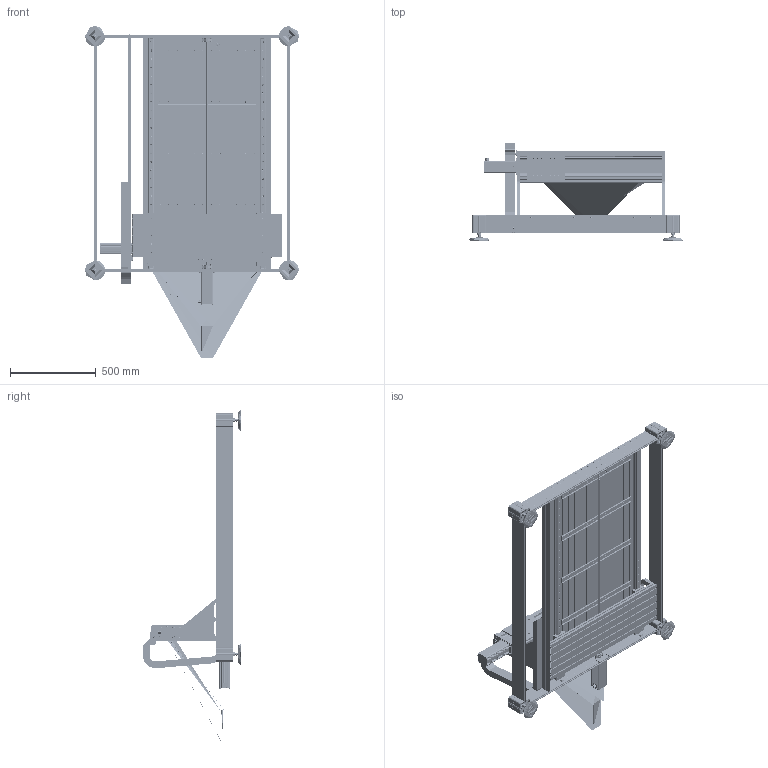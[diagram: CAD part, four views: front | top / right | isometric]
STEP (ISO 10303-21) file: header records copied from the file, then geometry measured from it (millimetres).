
FILE_DESCRIPTION (( 'STEP AP203' ), '1' );
FILE_NAME ('STEP_-_X-Y Flachbetteinheit FB2 - ArtNr 246203 2054M.step', '2015-04-22T15:04:22', ( '' ), ( '' ), 'SwSTEP 2.0', 'SolidWorks 2014', '' );
FILE_SCHEMA (( 'CONFIG_CONTROL_DESIGN' ));
Length unit declared in the file: millimetre
Products named in the file (6): STEP_-_X-Y Flachbetteinheit FB2 - ArtNr 246203 2054M; Tisch 750x1350; Tisch Baugruppe_750x1350; X-Y-Achse f黵 Verfahrweg 530; TE0060 - Schlittenplatte Vorschub 175mm; TE0179 - F黨rungsschlitten_F乭rungsschlitten f乺 KG-Mutter Typ25
Assembly tree (6 placements, depth 3):
  STEP_-_X-Y Flachbetteinheit FB2 - ArtNr 246203 2054M
    Tisch Baugruppe_750x1350
      Tisch 750x1350
    X-Y-Achse f黵 Verfahrweg 530
    TE0060 - Schlittenplatte Vorschub 175mm
    TE0179 - F黨rungsschlitten_F乭rungsschlitten f乺 KG-Mutter Typ25  x2
Bounding box: 1250 x 574.4 x 1938 mm (x, y, z)
Volume: 34729857.8 mm3; surface area: 20299569.1 mm2
Topology: 417 solids, 417 shells, 13736 faces, 35132 edges, 22738 vertices
Faces by surface type: plane 7853, cylinder 3834, cone 882, torus 610, bspline 421, sphere 136
Full cylindrical faces by diameter (mm): 0.6 x8, 1.5 x6, 2 x2, 2.33 x2, 2.4 x2, 2.5 x28, 2.6 x4, 3 x16, 3.2 x9, 4 x25, 4.2 x10, 4.5 x16, 4.6 x1, 4.8 x4, 5 x58, 5.2 x53, 5.5 x12, 6 x212, 6.1 x8, 6.35 x1, 6.4 x14, 6.5 x84, 6.6 x73, 7 x146, 7.2 x2, 7.5 x26, 8 x11, 8.5 x16, 9 x1, 9.2 x2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
Entity records: 443493 total; most frequent: CARTESIAN_POINT 134496, ORIENTED_EDGE 61512, DIRECTION 61212, EDGE_CURVE 30756, AXIS2_PLACEMENT_3D 21596, VERTEX_POINT 21322, EDGE_LOOP 18272, VECTOR 18020
